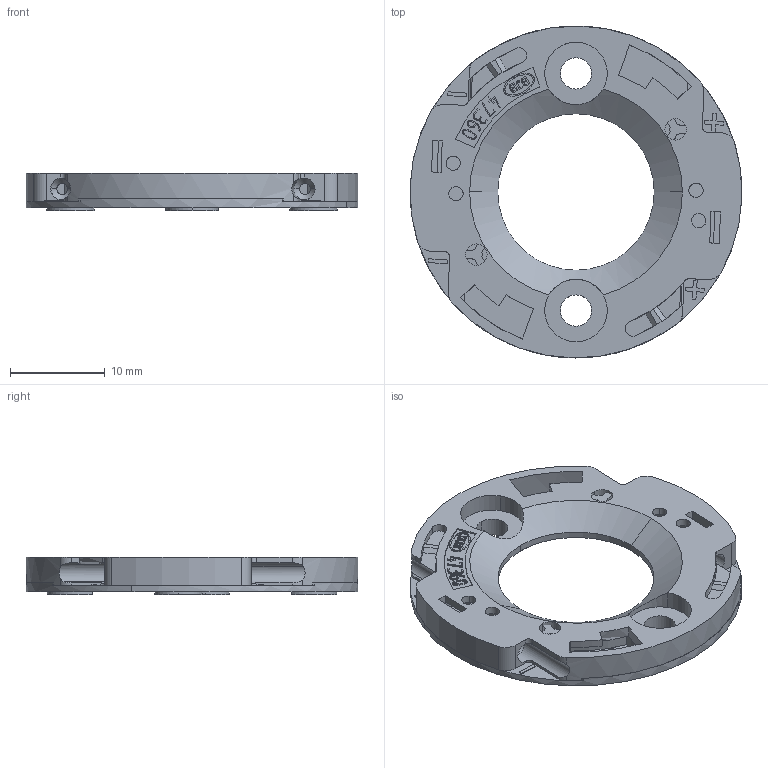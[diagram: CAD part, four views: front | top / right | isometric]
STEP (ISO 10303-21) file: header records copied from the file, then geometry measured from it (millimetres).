
FILE_DESCRIPTION(('CAx-IF Rec.Pracs.---Model Styling and Organization---1.2---2011-12-15','CAx-IF Rec.Pracs.---Geometric and Assembly Validation Properties---4.1---2014-06-16','CAx-IF Rec.Pracs.---PMI Polyline Presentation---2.0---2013-05-24'),'2;1');
FILE_NAME('01ZYR0GY04.stp','2019-03-07T08:51:23+01:00',(''),(''),'STEP Interface 4.2 by CT CoreTechnologie','3D_Evolution4.2 by CT CoreTechnologie','');
FILE_SCHEMA(('AUTOMOTIVE_DESIGN { 1 0 10303 214 1 1 1 1 }'));
Length unit declared in the file: millimetre
Products named in the file (3): 01Z-R0G-04; 01Z-R0E-05; 01Z-R0F-04
Assembly tree (2 placements, depth 2):
  01Z-R0G-04
    01Z-R0E-05
    01Z-R0F-04
Bounding box: 34.99 x 35 x 3.95 mm (x, y, z)
Volume: 1629.9 mm3; surface area: 3962.4 mm2
Topology: 4 solids, 4 shells, 543 faces, 1559 edges, 1052 vertices
Faces by surface type: plane 345, cylinder 160, bspline 38
Entity records: 23481 total; most frequent: CARTESIAN_POINT 4569, ORIENTED_EDGE 3118, DIRECTION 2912, EDGE_CURVE 1559, VECTOR 1098, LINE 1098, VERTEX_POINT 1052, AXIS2_PLACEMENT_3D 907
